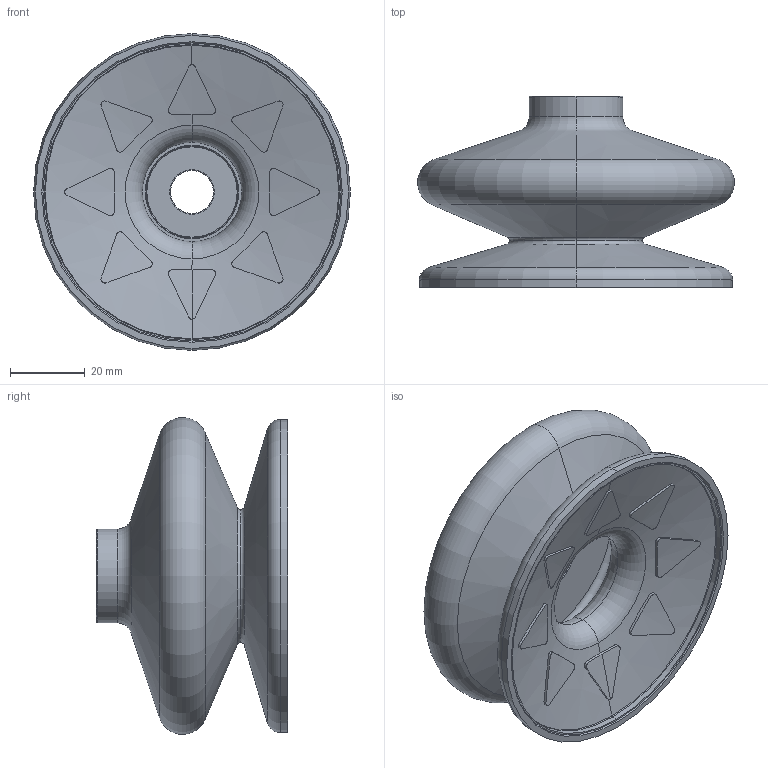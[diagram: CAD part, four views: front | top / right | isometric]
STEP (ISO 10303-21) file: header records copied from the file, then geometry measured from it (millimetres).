
FILE_DESCRIPTION (( 'STEP AP203' ), '1' );
FILE_NAME ('1_85--A.STEP', '2017-04-12T15:47:42', ( '' ), ( '' ), 'SwSTEP 2.0', 'SolidWorks 2016', '' );
FILE_SCHEMA (( 'CONFIG_CONTROL_DESIGN' ));
Length unit declared in the file: millimetre
Products named in the file (1): 1_85--A
Bounding box: 84.49 x 51 x 84.49 mm (x, y, z)
Volume: 106717.5 mm3; surface area: 30740.1 mm2
Topology: 1 solids, 1 shells, 117 faces, 278 edges, 172 vertices
Faces by surface type: cylinder 41, plane 29, torus 26, cone 21
Entity records: 4039 total; most frequent: CARTESIAN_POINT 1418, ORIENTED_EDGE 556, DIRECTION 484, EDGE_CURVE 278, AXIS2_PLACEMENT_3D 202, VERTEX_POINT 172, EDGE_LOOP 128, FACE_OUTER_BOUND 117
